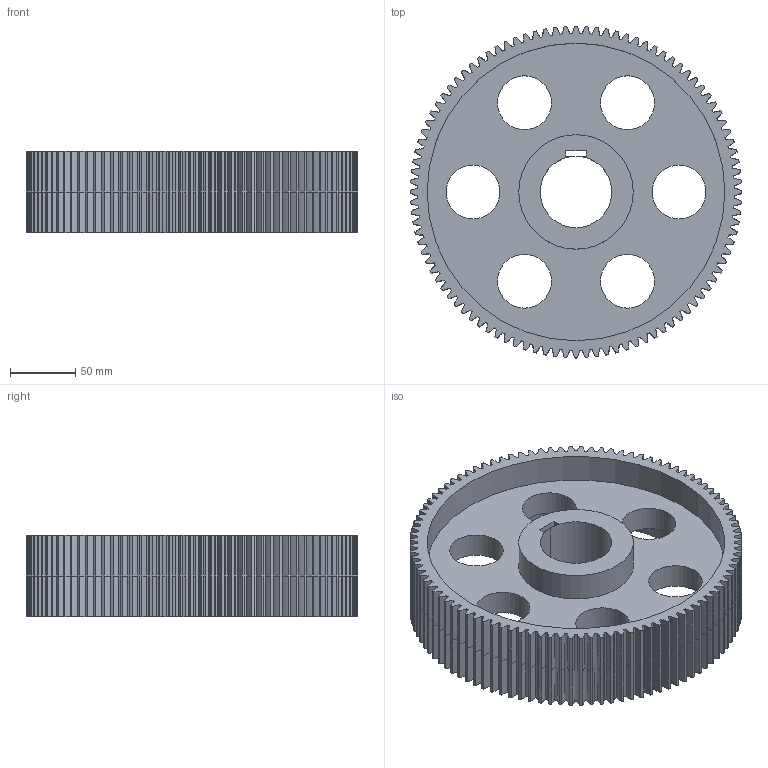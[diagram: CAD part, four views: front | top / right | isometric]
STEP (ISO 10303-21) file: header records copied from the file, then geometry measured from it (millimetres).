
FILE_DESCRIPTION(('Open CASCADE Model'),'2;1');
FILE_NAME('Open CASCADE Shape Model','2026-09-15T22:58:05',('Author'),( 'Open CASCADE'),'Open CASCADE STEP processor 7.9','build123d', 'Unknown');
FILE_SCHEMA(('AUTOMOTIVE_DESIGN { 1 0 10303 214 1 1 1 1 }'));
Length unit declared in the file: millimetre
Products named in the file (1): COMPOUND
Bounding box: 255 x 255 x 63 mm (x, y, z)
Volume: 1235829 mm3; surface area: 248469.2 mm2
Topology: 1 solids, 1 shells, 623 faces, 1850 edges, 1232 vertices
Faces by surface type: extrusion 400, cylinder 212, plane 11
Full cylindrical faces by diameter (mm): 41.397 x6, 88 x2, 228.75 x2
Entity records: 63938 total; most frequent: CARTESIAN_POINT 28478, DIRECTION 5792, VECTOR 4080, ORIENTED_EDGE 3702, PCURVE 3700, DEFINITIONAL_REPRESENTATION 3700, LINE 3680, EDGE_CURVE 1850
